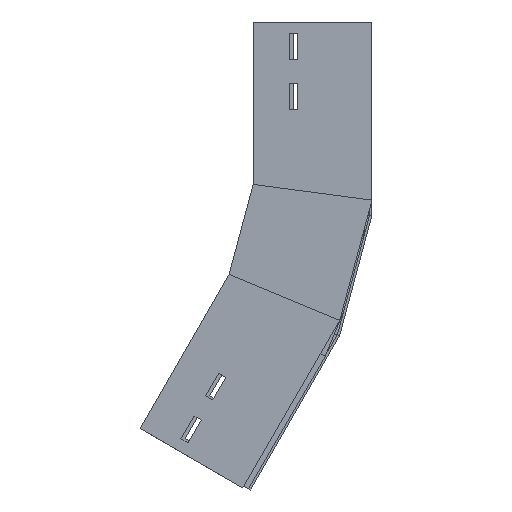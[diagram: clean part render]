
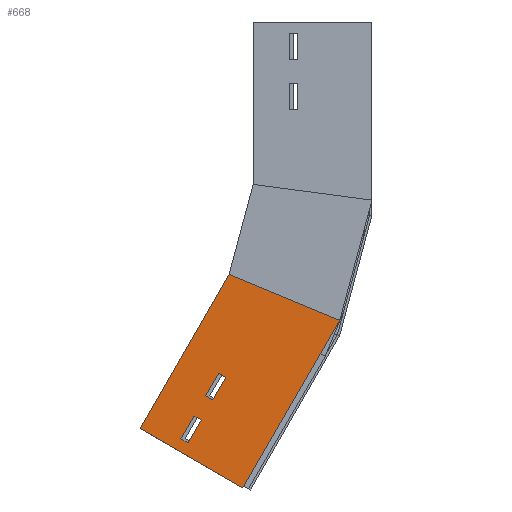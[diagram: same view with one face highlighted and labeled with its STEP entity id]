
A CAD part, left-side view. The second image highlights one B-rep face of the part: STEP entity #668.
In plain terms, the highlighted planar face has unit normal (-1, 0, 0) as drawn and (1, 0, 0) by its records, which use the part's own axes.
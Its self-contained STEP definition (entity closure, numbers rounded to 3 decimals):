
#14 = EDGE_CURVE ( 'NONE', #1409, #395, #554, .T. ) ;
#51 = VECTOR ( 'NONE', #602, 1000. ) ;
#62 = EDGE_LOOP ( 'NONE', ( #225, #913, #907, #1208 ) ) ;
#106 = DIRECTION ( 'NONE',  ( 0., 1., 0. ) ) ;
#126 = LINE ( 'NONE', #255, #1074 ) ;
#134 = ORIENTED_EDGE ( 'NONE', *, *, #410, .T. ) ;
#147 = EDGE_CURVE ( 'NONE', #333, #468, #1376, .T. ) ;
#149 = ORIENTED_EDGE ( 'NONE', *, *, #929, .T. ) ;
#171 = VERTEX_POINT ( 'NONE', #1204 ) ;
#180 = EDGE_LOOP ( 'NONE', ( #716, #1360, #740, #1244 ) ) ;
#209 = LINE ( 'NONE', #551, #1328 ) ;
#224 = CARTESIAN_POINT ( 'NONE',  ( 0., 0., 0. ) ) ;
#225 = ORIENTED_EDGE ( 'NONE', *, *, #147, .F. ) ;
#226 = DIRECTION ( 'NONE',  ( 0., 0., -1. ) ) ;
#248 = CARTESIAN_POINT ( 'NONE',  ( 0., 59., -51.505 ) ) ;
#255 = CARTESIAN_POINT ( 'NONE',  ( 0., 59., -9.835 ) ) ;
#295 = DIRECTION ( 'NONE',  ( 0., 0., -1. ) ) ;
#301 = ORIENTED_EDGE ( 'NONE', *, *, #1428, .T. ) ;
#304 = EDGE_CURVE ( 'NONE', #468, #395, #313, .T. ) ;
#305 = DIRECTION ( 'NONE',  ( -1., 0., 0. ) ) ;
#307 = VECTOR ( 'NONE', #295, 1000. ) ;
#313 = LINE ( 'NONE', #1017, #598 ) ;
#331 = LINE ( 'NONE', #580, #719 ) ;
#333 = VERTEX_POINT ( 'NONE', #875 ) ;
#364 = LINE ( 'NONE', #1093, #823 ) ;
#395 = VERTEX_POINT ( 'NONE', #693 ) ;
#410 = EDGE_CURVE ( 'NONE', #718, #1308, #364, .T. ) ;
#416 = CARTESIAN_POINT ( 'NONE',  ( 0., 0., 0. ) ) ;
#418 = CARTESIAN_POINT ( 'NONE',  ( 0., 0., 0. ) ) ;
#424 = DIRECTION ( 'NONE',  ( 0., 1., 0. ) ) ;
#456 = DIRECTION ( 'NONE',  ( 0., 0., 1. ) ) ;
#458 = VERTEX_POINT ( 'NONE', #1034 ) ;
#468 = VERTEX_POINT ( 'NONE', #592 ) ;
#511 = VERTEX_POINT ( 'NONE', #1182 ) ;
#546 = CARTESIAN_POINT ( 'NONE',  ( 0., 66., -51.505 ) ) ;
#551 = CARTESIAN_POINT ( 'NONE',  ( 0., 66., -31.835 ) ) ;
#554 = LINE ( 'NONE', #416, #1261 ) ;
#580 = CARTESIAN_POINT ( 'NONE',  ( 0., 59., -51.505 ) ) ;
#591 = CARTESIAN_POINT ( 'NONE',  ( 0., 66., -31.835 ) ) ;
#592 = CARTESIAN_POINT ( 'NONE',  ( 0., 100., -149.835 ) ) ;
#598 = VECTOR ( 'NONE', #647, 1000. ) ;
#602 = DIRECTION ( 'NONE',  ( 0., 0., -1. ) ) ;
#630 = EDGE_CURVE ( 'NONE', #171, #511, #126, .T. ) ;
#647 = DIRECTION ( 'NONE',  ( 0., -0.991, -0.131 ) ) ;
#658 = DIRECTION ( 'NONE',  ( 0., -1., 0. ) ) ;
#668 = ADVANCED_FACE ( 'NONE', ( #839, #1435, #1302 ), #1318, .F. ) ;
#693 = CARTESIAN_POINT ( 'NONE',  ( 0., 0., -163. ) ) ;
#703 = DIRECTION ( 'NONE',  ( 0., 0., 1. ) ) ;
#716 = ORIENTED_EDGE ( 'NONE', *, *, #1167, .T. ) ;
#718 = VERTEX_POINT ( 'NONE', #1212 ) ;
#719 = VECTOR ( 'NONE', #456, 1000. ) ;
#740 = ORIENTED_EDGE ( 'NONE', *, *, #1293, .T. ) ;
#745 = LINE ( 'NONE', #546, #1468 ) ;
#793 = DIRECTION ( 'NONE',  ( 0., -1., 0. ) ) ;
#823 = VECTOR ( 'NONE', #793, 1000. ) ;
#825 = CARTESIAN_POINT ( 'NONE',  ( 0., 66., -9.835 ) ) ;
#839 = FACE_BOUND ( 'NONE', #989, .T. ) ;
#844 = AXIS2_PLACEMENT_3D ( 'NONE', #418, #305, #983 ) ;
#853 = EDGE_CURVE ( 'NONE', #1352, #458, #745, .T. ) ;
#855 = LINE ( 'NONE', #980, #1298 ) ;
#872 = DIRECTION ( 'NONE',  ( 0., 1., 0. ) ) ;
#875 = CARTESIAN_POINT ( 'NONE',  ( 0., 100., 0. ) ) ;
#907 = ORIENTED_EDGE ( 'NONE', *, *, #14, .T. ) ;
#913 = ORIENTED_EDGE ( 'NONE', *, *, #1325, .F. ) ;
#929 = EDGE_CURVE ( 'NONE', #1308, #1352, #331, .T. ) ;
#937 = CARTESIAN_POINT ( 'NONE',  ( 0., 66., -51.505 ) ) ;
#938 = VERTEX_POINT ( 'NONE', #591 ) ;
#941 = LINE ( 'NONE', #825, #1452 ) ;
#980 = CARTESIAN_POINT ( 'NONE',  ( 0., 66., -9.835 ) ) ;
#983 = DIRECTION ( 'NONE',  ( 0., 0., 1. ) ) ;
#989 = EDGE_LOOP ( 'NONE', ( #1490, #301, #134, #149 ) ) ;
#994 = VECTOR ( 'NONE', #106, 1000. ) ;
#1006 = CARTESIAN_POINT ( 'NONE',  ( 0., 59., -73.505 ) ) ;
#1017 = CARTESIAN_POINT ( 'NONE',  ( 0., 21.094, -160.223 ) ) ;
#1034 = CARTESIAN_POINT ( 'NONE',  ( 0., 66., -51.505 ) ) ;
#1052 = EDGE_CURVE ( 'NONE', #1374, #938, #941, .T. ) ;
#1064 = LINE ( 'NONE', #937, #51 ) ;
#1074 = VECTOR ( 'NONE', #703, 1000. ) ;
#1093 = CARTESIAN_POINT ( 'NONE',  ( 0., 66., -73.505 ) ) ;
#1167 = EDGE_CURVE ( 'NONE', #511, #1374, #855, .T. ) ;
#1182 = CARTESIAN_POINT ( 'NONE',  ( 0., 59., -9.835 ) ) ;
#1204 = CARTESIAN_POINT ( 'NONE',  ( 0., 59., -31.835 ) ) ;
#1208 = ORIENTED_EDGE ( 'NONE', *, *, #304, .F. ) ;
#1212 = CARTESIAN_POINT ( 'NONE',  ( 0., 66., -73.505 ) ) ;
#1244 = ORIENTED_EDGE ( 'NONE', *, *, #630, .T. ) ;
#1252 = LINE ( 'NONE', #1347, #994 ) ;
#1261 = VECTOR ( 'NONE', #226, 1000. ) ;
#1293 = EDGE_CURVE ( 'NONE', #938, #171, #209, .T. ) ;
#1298 = VECTOR ( 'NONE', #872, 1000. ) ;
#1302 = FACE_BOUND ( 'NONE', #180, .T. ) ;
#1308 = VERTEX_POINT ( 'NONE', #1006 ) ;
#1314 = CARTESIAN_POINT ( 'NONE',  ( 0., 100., 0. ) ) ;
#1318 = PLANE ( 'NONE',  #844 ) ;
#1325 = EDGE_CURVE ( 'NONE', #1409, #333, #1252, .T. ) ;
#1328 = VECTOR ( 'NONE', #658, 1000. ) ;
#1347 = CARTESIAN_POINT ( 'NONE',  ( 0., 0., 0. ) ) ;
#1352 = VERTEX_POINT ( 'NONE', #248 ) ;
#1360 = ORIENTED_EDGE ( 'NONE', *, *, #1052, .T. ) ;
#1374 = VERTEX_POINT ( 'NONE', #1471 ) ;
#1376 = LINE ( 'NONE', #1314, #307 ) ;
#1388 = DIRECTION ( 'NONE',  ( 0., 0., -1. ) ) ;
#1409 = VERTEX_POINT ( 'NONE', #224 ) ;
#1428 = EDGE_CURVE ( 'NONE', #458, #718, #1064, .T. ) ;
#1435 = FACE_OUTER_BOUND ( 'NONE', #62, .T. ) ;
#1452 = VECTOR ( 'NONE', #1388, 1000. ) ;
#1468 = VECTOR ( 'NONE', #424, 1000. ) ;
#1471 = CARTESIAN_POINT ( 'NONE',  ( 0., 66., -9.835 ) ) ;
#1490 = ORIENTED_EDGE ( 'NONE', *, *, #853, .T. ) ;
